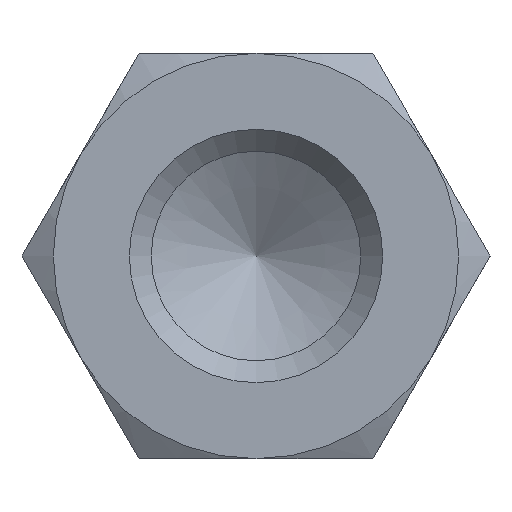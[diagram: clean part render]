
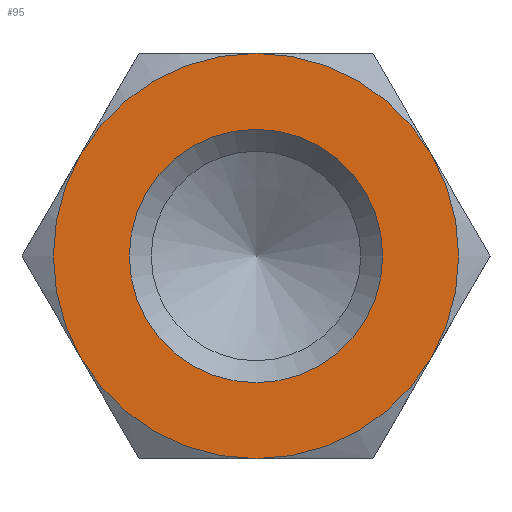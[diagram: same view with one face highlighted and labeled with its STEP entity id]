
A CAD part, left-side view. The second image highlights one B-rep face of the part: STEP entity #95.
In plain terms, the highlighted planar face has unit normal (-1, 0, 0).
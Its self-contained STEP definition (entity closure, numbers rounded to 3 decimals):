
#95 = ADVANCED_FACE( '', ( #147, #148 ), #149, .F. );
#147 = FACE_OUTER_BOUND( '', #206, .T. );
#148 = FACE_BOUND( '', #207, .T. );
#149 = PLANE( '', #208 );
#206 = EDGE_LOOP( '', ( #356, #357, #358, #359, #360, #361 ) );
#207 = EDGE_LOOP( '', ( #362 ) );
#208 = AXIS2_PLACEMENT_3D( '', #363, #364, #365 );
#356 = ORIENTED_EDGE( '', *, *, #440, .F. );
#357 = ORIENTED_EDGE( '', *, *, #425, .F. );
#358 = ORIENTED_EDGE( '', *, *, #441, .F. );
#359 = ORIENTED_EDGE( '', *, *, #437, .F. );
#360 = ORIENTED_EDGE( '', *, *, #442, .F. );
#361 = ORIENTED_EDGE( '', *, *, #443, .F. );
#362 = ORIENTED_EDGE( '', *, *, #439, .T. );
#363 = CARTESIAN_POINT( '', ( -12., 0., 0. ) );
#364 = DIRECTION( '', ( 1., 0., 0. ) );
#365 = DIRECTION( '', ( 0., 0., -1. ) );
#425 = EDGE_CURVE( '', #495, #493, #497, .T. );
#437 = EDGE_CURVE( '', #447, #506, #513, .T. );
#439 = EDGE_CURVE( '', #516, #516, #517, .T. );
#440 = EDGE_CURVE( '', #493, #486, #518, .T. );
#441 = EDGE_CURVE( '', #506, #495, #519, .T. );
#442 = EDGE_CURVE( '', #481, #447, #520, .T. );
#443 = EDGE_CURVE( '', #486, #481, #521, .T. );
#447 = VERTEX_POINT( '', #525 );
#481 = VERTEX_POINT( '', #595 );
#486 = VERTEX_POINT( '', #611 );
#493 = VERTEX_POINT( '', #632 );
#495 = VERTEX_POINT( '', #637 );
#497 = CIRCLE( '', #644, 4. );
#506 = VERTEX_POINT( '', #670 );
#513 = CIRCLE( '', #701, 4. );
#516 = VERTEX_POINT( '', #704 );
#517 = CIRCLE( '', #705, 2.5 );
#518 = CIRCLE( '', #706, 4. );
#519 = CIRCLE( '', #707, 4. );
#520 = CIRCLE( '', #708, 4. );
#521 = CIRCLE( '', #709, 4. );
#525 = CARTESIAN_POINT( '', ( -12., -3.464, 2. ) );
#595 = CARTESIAN_POINT( '', ( -12., 0., 4. ) );
#611 = CARTESIAN_POINT( '', ( -12., 3.464, 2. ) );
#632 = CARTESIAN_POINT( '', ( -12., 3.464, -2. ) );
#637 = CARTESIAN_POINT( '', ( -12., 0., -4. ) );
#644 = AXIS2_PLACEMENT_3D( '', #744, #745, #746 );
#670 = CARTESIAN_POINT( '', ( -12., -3.464, -2. ) );
#701 = AXIS2_PLACEMENT_3D( '', #749, #750, #751 );
#704 = CARTESIAN_POINT( '', ( -12., 0., -2.5 ) );
#705 = AXIS2_PLACEMENT_3D( '', #755, #756, #757 );
#706 = AXIS2_PLACEMENT_3D( '', #758, #759, #760 );
#707 = AXIS2_PLACEMENT_3D( '', #761, #762, #763 );
#708 = AXIS2_PLACEMENT_3D( '', #764, #765, #766 );
#709 = AXIS2_PLACEMENT_3D( '', #767, #768, #769 );
#744 = CARTESIAN_POINT( '', ( -12., 0., 0. ) );
#745 = DIRECTION( '', ( 1., 0., 0. ) );
#746 = DIRECTION( '', ( 0., 0., -1. ) );
#749 = CARTESIAN_POINT( '', ( -12., 0., 0. ) );
#750 = DIRECTION( '', ( 1., 0., 0. ) );
#751 = DIRECTION( '', ( 0., 0., -1. ) );
#755 = CARTESIAN_POINT( '', ( -12., 0., 0. ) );
#756 = DIRECTION( '', ( 1., 0., 0. ) );
#757 = DIRECTION( '', ( 0., 0., -1. ) );
#758 = CARTESIAN_POINT( '', ( -12., 0., 0. ) );
#759 = DIRECTION( '', ( 1., 0., 0. ) );
#760 = DIRECTION( '', ( 0., 0., -1. ) );
#761 = CARTESIAN_POINT( '', ( -12., 0., 0. ) );
#762 = DIRECTION( '', ( 1., 0., 0. ) );
#763 = DIRECTION( '', ( 0., 0., -1. ) );
#764 = CARTESIAN_POINT( '', ( -12., 0., 0. ) );
#765 = DIRECTION( '', ( 1., 0., 0. ) );
#766 = DIRECTION( '', ( 0., 0., -1. ) );
#767 = CARTESIAN_POINT( '', ( -12., 0., 0. ) );
#768 = DIRECTION( '', ( 1., 0., 0. ) );
#769 = DIRECTION( '', ( 0., 0., -1. ) );
